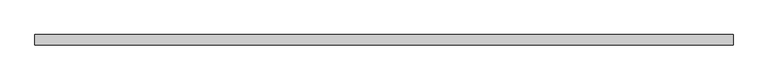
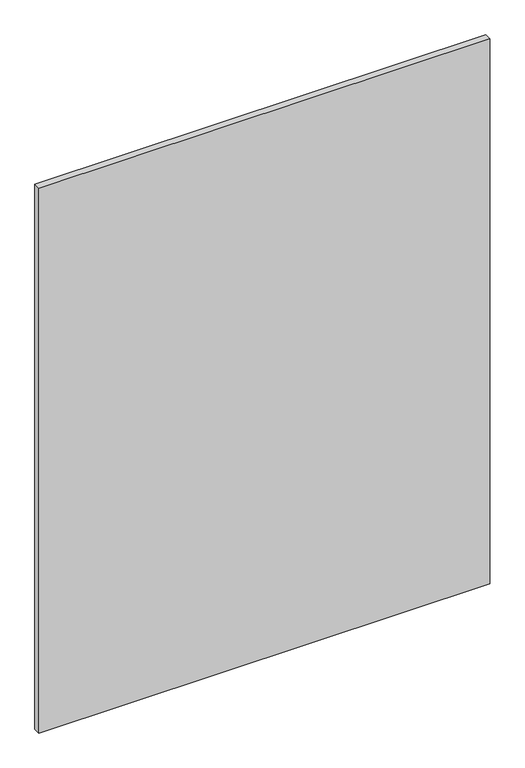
"""IFC4 building model written with IfcOpenShell, lengths in millimetres: plate geometry, 系统嵌板 : 玻璃."""

from ifc_helpers import new_model, si_unit, origin, origin_with_axes, place, context, project, spatial, polyline, outline, extrude, source, transform, mapped, element, save


def plate_6d2e8075(model_context):
    return source(origin(), model_context, "Body", "SweptSolid", [
        extrude(outline(polyline([(831.4430473, -12.5), (-831.4430473, -12.5), (-831.4430473, 12.5), (831.4430473, 12.5), (831.4430473, -12.5)])), origin_with_axes(), (0.0, 0.0, 1.0), 2125.0),
    ])


if __name__ == "__main__":
    model = new_model("IFC4")
    model_context = context("Model", 3, world=origin())
    ifc_project = project(units=[si_unit("LENGTHUNIT", "METRE", prefix="MILLI")], contexts=[model_context])
    site = spatial("IfcSite", under=ifc_project)
    building = spatial("IfcBuilding", under=site)
    placement = place(None, origin())
    plate_shape = plate_6d2e8075(model_context)
    element("IfcPlate", 1, ObjectType="系统嵌板 : 玻璃", at=placement, inside=building, context=model_context, shape_type="MappedRepresentation", body=[
        mapped(plate_shape, transform((0.0, 0.0, 0.0), x_axis=(1.0, 0.0, 0.0), y_axis=(0.0, 1.0, 0.0), z_axis=(0.0, 0.0, 1.0))),
    ])
    save(model, "model.ifc")
